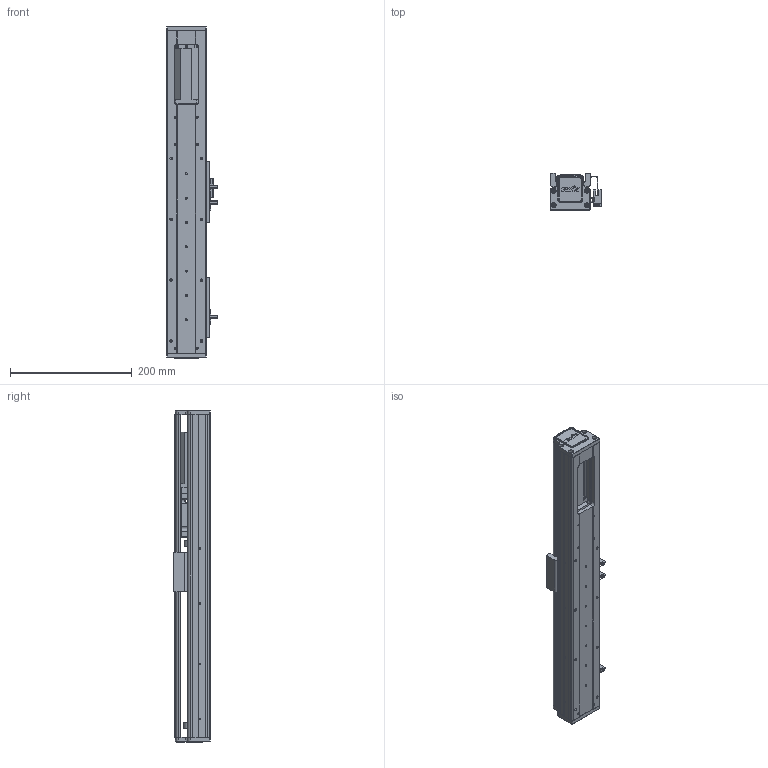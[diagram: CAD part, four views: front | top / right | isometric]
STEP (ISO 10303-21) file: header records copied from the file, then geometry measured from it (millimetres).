
FILE_DESCRIPTION (( 'STEP AP203' ), '1' );
FILE_NAME ('RY60-L1210-300-IK.SLDASM_200.step', '2021-02-22T05:11:58', ( '盈信电脑' ), ( '东莞市道滘镇水果街19号' ), 'SwSTEP 2.0', 'SolidWorks 2012', '' );
FILE_SCHEMA (( 'CONFIG_CONTROL_DESIGN' ));
Length unit declared in the file: millimetre
Products named in the file (12): RY60綴裔啣; 覜茼ん672; 672嫖萇羲壽假蚾釱; RY80俋离覜茼え; RY60-300倰第菁釱-IK_200; RY60-300倰第裔啣-IK_200; RY60臏賑輸; RY60萇儂傷盓傅釱; 滅袉蝶18-10; RY60-内置电机板100W（m3）; 侂狟100W; RY60-L1210-300-IK.SLDASM_200
Assembly tree (18 placements, depth 2):
  RY60-L1210-300-IK.SLDASM_200
    RY60-300倰第菁釱-IK_200
    RY60臏賑輸
    RY60-300倰第裔啣-IK_200
    RY60萇儂傷盓傅釱
    672嫖萇羲壽假蚾釱  x2
    RY60綴裔啣  x2
    覜茼ん672  x3
    RY80俋离覜茼え
    侂狟100W
    滅袉蝶18-10  x4
    RY60-内置电机板100W（m3）
Bounding box: 83.7 x 61 x 546 mm (x, y, z)
Volume: 781651 mm3; surface area: 368854.2 mm2
Topology: 18 solids, 18 shells, 1450 faces, 4035 edges, 2613 vertices
Faces by surface type: plane 785, cylinder 559, cone 90, bspline 16
Entity records: 38544 total; most frequent: CARTESIAN_POINT 9026, ORIENTED_EDGE 5982, DIRECTION 5720, EDGE_CURVE 2991, VERTEX_POINT 1959, AXIS2_PLACEMENT_3D 1927, VECTOR 1866, LINE 1866
